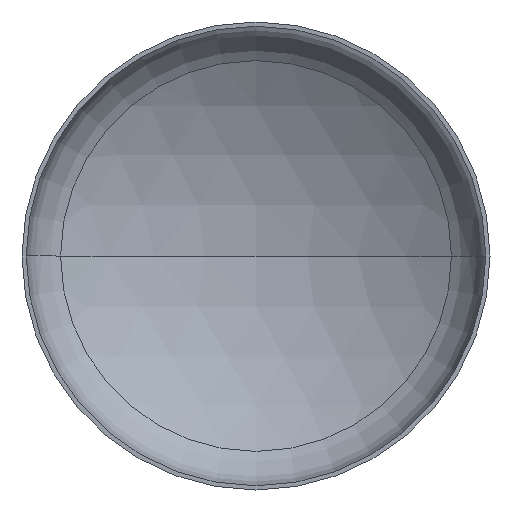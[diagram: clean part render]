
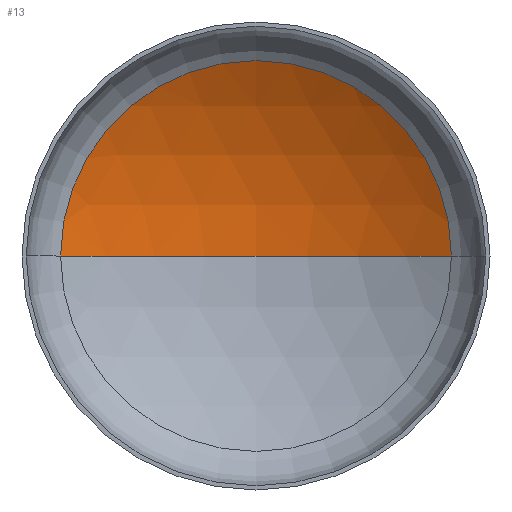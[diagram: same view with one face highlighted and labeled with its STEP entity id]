
A CAD part, front view. The second image highlights one B-rep face of the part: STEP entity #13.
In plain terms, the highlighted spherical face has radius 4400 mm.
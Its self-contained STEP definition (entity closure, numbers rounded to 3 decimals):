
#13 = ADVANCED_FACE ( 'NONE', ( #353 ), #16, .F. ) ;
#16 = SPHERICAL_SURFACE ( 'NONE', #50, 4400. ) ;
#32 = CARTESIAN_POINT ( 'NONE',  ( 0., -2882.656, 0. ) ) ;
#50 = AXIS2_PLACEMENT_3D ( 'NONE', #339, #62, #239 ) ;
#59 = AXIS2_PLACEMENT_3D ( 'NONE', #373, #406, #189 ) ;
#62 = DIRECTION ( 'NONE',  ( 0., 0., -1. ) ) ;
#71 = CARTESIAN_POINT ( 'NONE',  ( 0., 1517.344, 0. ) ) ;
#76 = VERTEX_POINT ( 'NONE', #366 ) ;
#97 = EDGE_CURVE ( 'NONE', #76, #274, #404, .T. ) ;
#103 = EDGE_CURVE ( 'NONE', #161, #76, #237, .T. ) ;
#108 = EDGE_CURVE ( 'NONE', #161, #274, #156, .T. ) ;
#127 = ORIENTED_EDGE ( 'NONE', *, *, #103, .T. ) ;
#138 = DIRECTION ( 'NONE',  ( 0., 0., 1. ) ) ;
#142 = ORIENTED_EDGE ( 'NONE', *, *, #97, .T. ) ;
#156 = CIRCLE ( 'NONE', #301, 4400. ) ;
#161 = VERTEX_POINT ( 'NONE', #71 ) ;
#189 = DIRECTION ( 'NONE',  ( 1., 0., 0. ) ) ;
#221 = DIRECTION ( 'NONE',  ( 0., 0., -1. ) ) ;
#225 = CARTESIAN_POINT ( 'NONE',  ( -2295.921, 870.842, 0. ) ) ;
#237 = CIRCLE ( 'NONE', #284, 4400. ) ;
#239 = DIRECTION ( 'NONE',  ( -1., 0., 0. ) ) ;
#274 = VERTEX_POINT ( 'NONE', #225 ) ;
#284 = AXIS2_PLACEMENT_3D ( 'NONE', #32, #221, #407 ) ;
#301 = AXIS2_PLACEMENT_3D ( 'NONE', #311, #138, #349 ) ;
#311 = CARTESIAN_POINT ( 'NONE',  ( 0., -2882.656, 0. ) ) ;
#321 = ORIENTED_EDGE ( 'NONE', *, *, #108, .F. ) ;
#339 = CARTESIAN_POINT ( 'NONE',  ( 0., -2882.656, 0. ) ) ;
#349 = DIRECTION ( 'NONE',  ( 1., 0., 0. ) ) ;
#353 = FACE_OUTER_BOUND ( 'NONE', #400, .T. ) ;
#366 = CARTESIAN_POINT ( 'NONE',  ( 2295.921, 870.842, 0. ) ) ;
#373 = CARTESIAN_POINT ( 'NONE',  ( 0., 870.842, 0. ) ) ;
#400 = EDGE_LOOP ( 'NONE', ( #321, #127, #142 ) ) ;
#404 = CIRCLE ( 'NONE', #59, 2295.921 ) ;
#406 = DIRECTION ( 'NONE',  ( 0., -1., 0. ) ) ;
#407 = DIRECTION ( 'NONE',  ( -1., 0., 0. ) ) ;
